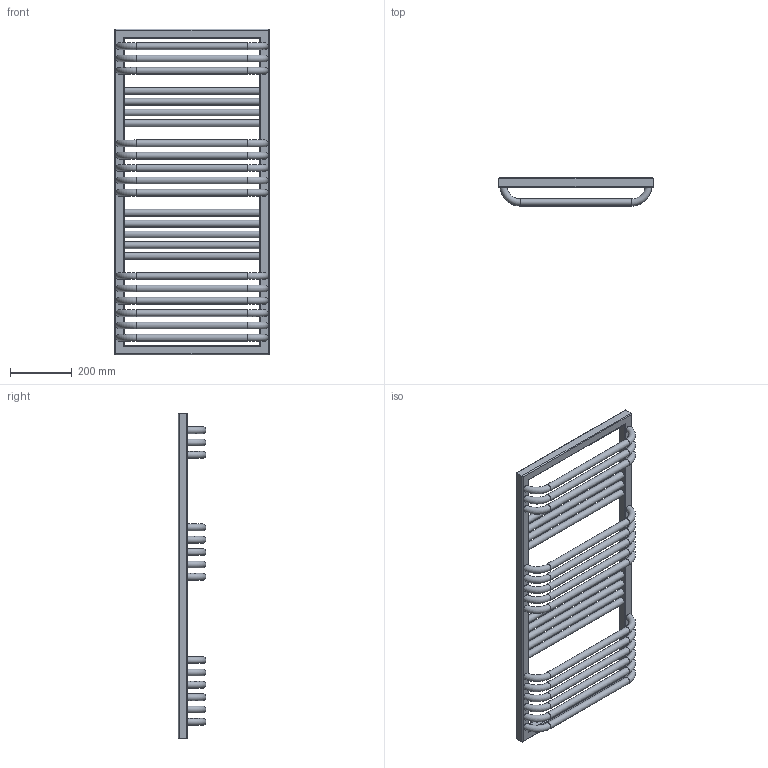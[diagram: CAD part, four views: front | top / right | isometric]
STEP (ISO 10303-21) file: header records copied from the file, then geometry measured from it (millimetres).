
FILE_DESCRIPTION((''),'2;1');
FILE_NAME('Z:\R\G\P\RGPH18 - Grzejnik POC\Work\Inventor\POC 1-6-8 v2.0\Marketing\AutoCad 3D\POC-1055-500-1-6-8.stp','2012-07-12T14:39:38',('KurKa'),(''),'Autodesk Inventor 2012','Autodesk Inventor 2012','');
FILE_SCHEMA(('AUTOMOTIVE_DESIGN { 1 0 10303 214 1 1 1 1 }'));
Length unit declared in the file: millimetre
Products named in the file (1): POC-1055-500-1-6-8
Bounding box: 500 x 90 x 1055 mm (x, y, z)
Volume: 6941567.7 mm3; surface area: 1105755.7 mm2
Topology: 1 solids, 1 shells, 86 faces, 224 edges, 143 vertices
Faces by surface type: cylinder 42, torus 31, plane 13
Full cylindrical faces by diameter (mm): 18.631 x3, 22 x23
Entity records: 3976 total; most frequent: CARTESIAN_POINT 2161, DIRECTION 356, ORIENTED_EDGE 278, EDGE_LOOP 194, AXIS2_PLACEMENT_3D 158, EDGE_CURVE 139, VERTEX_POINT 115, FACE_BOUND 108
